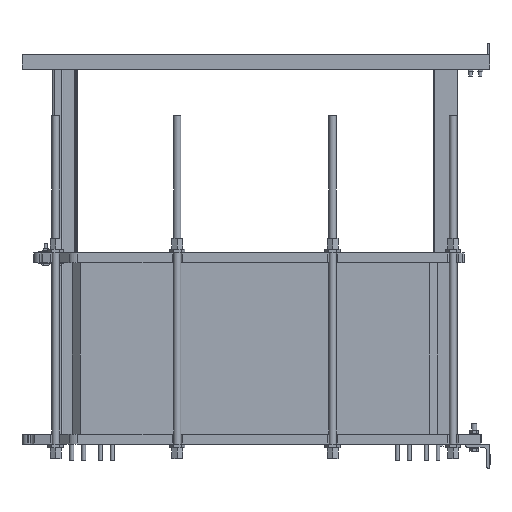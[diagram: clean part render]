
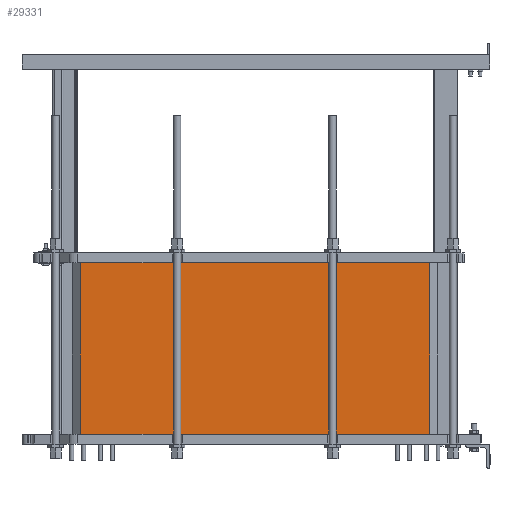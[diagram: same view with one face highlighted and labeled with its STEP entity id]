
A CAD part, left-side view. The second image highlights one B-rep face of the part: STEP entity #29331.
In plain terms, the highlighted planar face has unit normal (-1, 0, 0).
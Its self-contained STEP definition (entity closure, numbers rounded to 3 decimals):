
#21680=CARTESIAN_POINT('',(-187.5,705.0,745.0));
#21681=VERTEX_POINT('',#21680);
#21688=CARTESIAN_POINT('',(-187.5,-731.0,745.0));
#21689=VERTEX_POINT('',#21688);
#21690=CARTESIAN_POINT('',(-187.5,-731.0,745.0));
#21691=DIRECTION('',(0.0,1.0,0.0));
#21692=VECTOR('',#21691,1436.0);
#21693=LINE('',#21690,#21692);
#21694=EDGE_CURVE('',#21689,#21681,#21693,.T.);
#28280=CARTESIAN_POINT('',(-187.5,-731.0,40.0));
#28281=VERTEX_POINT('',#28280);
#28288=CARTESIAN_POINT('',(-187.5,705.0,40.0));
#28289=VERTEX_POINT('',#28288);
#28290=CARTESIAN_POINT('',(-187.5,-731.0,40.0));
#28291=DIRECTION('',(0.0,1.0,0.0));
#28292=VECTOR('',#28291,1436.0);
#28293=LINE('',#28290,#28292);
#28294=EDGE_CURVE('',#28281,#28289,#28293,.T.);
#29306=CARTESIAN_POINT('',(-187.5,705.0,40.0));
#29307=DIRECTION('',(0.0,0.0,1.0));
#29308=VECTOR('',#29307,705.0);
#29309=LINE('',#29306,#29308);
#29310=EDGE_CURVE('',#28289,#21681,#29309,.T.);
#29315=CARTESIAN_POINT('',(-187.5,-731.0,40.0));
#29316=DIRECTION('',(-1.0,0.0,0.0));
#29317=DIRECTION('',(0.0,0.0,1.0));
#29318=AXIS2_PLACEMENT_3D('',#29315,#29316,#29317);
#29319=PLANE('',#29318);
#29320=ORIENTED_EDGE('',*,*,#21694,.T.);
#29321=ORIENTED_EDGE('',*,*,#29310,.F.);
#29322=ORIENTED_EDGE('',*,*,#28294,.F.);
#29323=CARTESIAN_POINT('',(-187.5,-731.0,40.0));
#29324=DIRECTION('',(0.0,0.0,1.0));
#29325=VECTOR('',#29324,705.0);
#29326=LINE('',#29323,#29325);
#29327=EDGE_CURVE('',#28281,#21689,#29326,.T.);
#29328=ORIENTED_EDGE('',*,*,#29327,.T.);
#29329=EDGE_LOOP('',(#29320,#29321,#29322,#29328));
#29330=FACE_OUTER_BOUND('',#29329,.T.);
#29331=ADVANCED_FACE('',(#29330),#29319,.T.);
